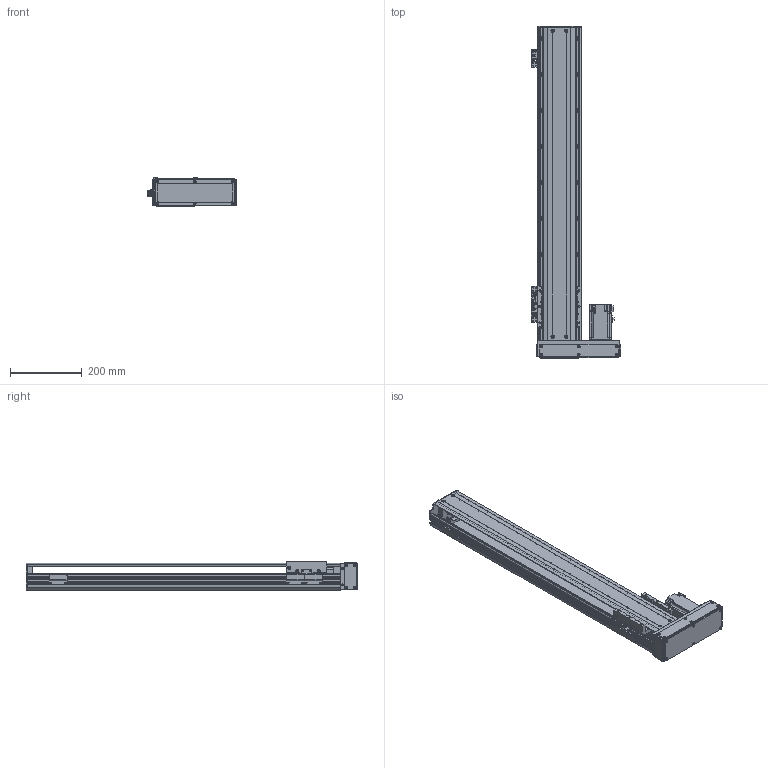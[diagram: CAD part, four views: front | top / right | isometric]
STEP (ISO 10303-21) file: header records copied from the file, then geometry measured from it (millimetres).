
FILE_DESCRIPTION(/* description */ ('MANUFACTURE'),/* implementation_level */ '2;1');
FILE_NAME(/* name */ '\\192.168.0.160\disk1\HAN SHIN Master\B-설계부문\C-표준\B-2024년\BC02-표준도면\+로봇 개선표준도면\홈페이지 표준 도면\홈페이지 최종 작업 폴더\3D\HR\HR120\HR120병렬\우병렬\HR120-R40-N-0700-L10.stp',/* time_stamp */ '2025-01-20T18:52:11+09:00',/* author */ ('user'),/* organization */ (''),/* preprocessor_version */ 'ST-DEVELOPER v18.1',/* originating_system */ 'Autodesk Inventor 2022',/* authorisation */ 'LIP');
FILE_SCHEMA (('CONFIG_CONTROL_DESIGN'));
Products named in the file (20): HG120-L40-N-0500-R10; HR120 S BASE; HR(HG) 120,130 FRONT BLOCK; HR(HG) 120,130 FRONT BLOCK_1; HR120 FRONT COVER; HG5UPCOV003; ORP6; HG120 TABLE-N; HR120 STOPPER; HR120 LR MOTOR PLATE (400W)-사출; MOTOR PLATE - 200W; hg-kr43_; 화살표; HR120 LR BELT COVER; HR160 ACRYL COVER - 1; HR160 ACRYL COVER - 1_1; HR160 ACRYL COVER - 1_2; HR120 SENSOR DOG; SENSOR BRK(EE-SX674A); EE_SX674A
Assembly tree (25 placements, depth 2):
  HG120-L40-N-0500-R10
    HR120 S BASE
    HR(HG) 120,130 FRONT BLOCK
    HR(HG) 120,130 FRONT BLOCK_1
    HR120 FRONT COVER
    HG5UPCOV003
    ORP6
    HG120 TABLE-N
    HR120 STOPPER
    HR120 LR MOTOR PLATE (400W)-사출
    MOTOR PLATE - 200W
    hg-kr43_
    화살표  x2
    HR120 LR BELT COVER
    HR160 ACRYL COVER - 1
    HR160 ACRYL COVER - 1_1
    HR160 ACRYL COVER - 1_2  x2
    SENSOR BRK(EE-SX674A)  x3
    EE_SX674A  x3
    HR120 SENSOR DOG
Bounding box: 250 x 923 x 80 mm (x, y, z)
Volume: 2667727.1 mm3; surface area: 1097647 mm2
Topology: 25 solids, 25 shells, 3098 faces, 8882 edges, 5869 vertices
Faces by surface type: plane 2211, cylinder 742, cone 144, torus 1
Full cylindrical faces by diameter (mm): 2.459 x50, 3 x4, 3.242 x48, 3.4 x20, 3.5 x6, 4.134 x44, 4.5 x56, 4.917 x6, 5 x26, 5.5 x33, 5.8 x4, 5.9 x8, 6 x4, 6.6 x2, 7 x4, 7.5 x16, 8 x4, 9 x6, 9.5 x21, 14 x1, 17 x1, 20 x1, 22 x1, 24 x1, 28 x1, 32 x2, 33.7 x1, 50 x2
Entity records: 98964 total; most frequent: CARTESIAN_POINT 20071, ORIENTED_EDGE 16516, DIRECTION 15298, EDGE_CURVE 8258, LINE 6558, VECTOR 6558, VERTEX_POINT 5521, AXIS2_PLACEMENT_3D 4370
